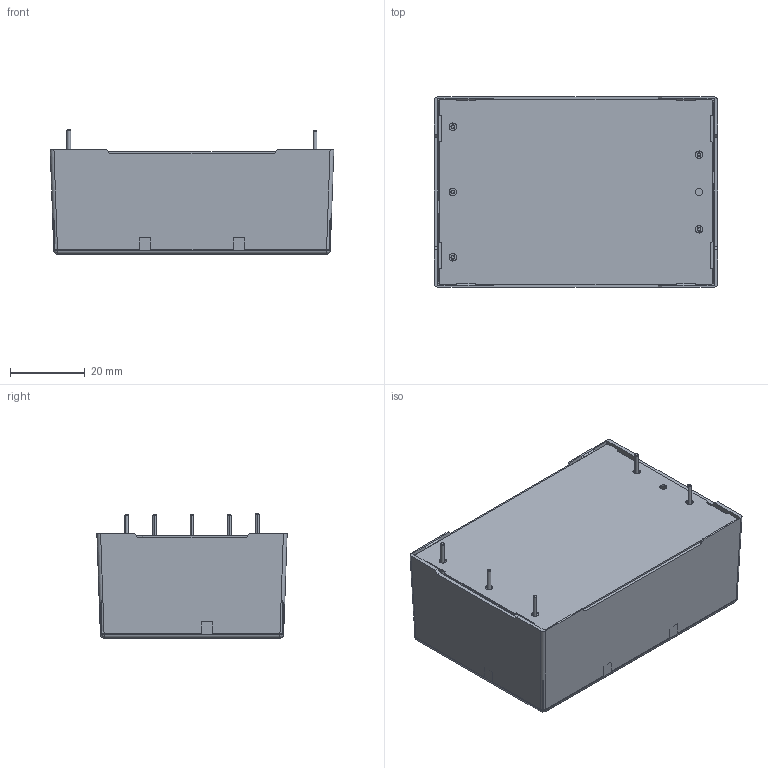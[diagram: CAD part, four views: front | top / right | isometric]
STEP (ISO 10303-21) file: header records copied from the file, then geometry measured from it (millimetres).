
FILE_DESCRIPTION (( 'STEP AP214' ), '1' );
FILE_NAME ('tms25-pcb-single.STEP', '2015-12-22T15:25:25', ( '' ), ( '' ), 'SwSTEP 2.0', 'SolidWorks 2013', '' );
FILE_SCHEMA (( 'AUTOMOTIVE_DESIGN' ));
Length unit declared in the file: millimetre
Products named in the file (4): Pin; Base; Case; tms25-pcb-single
Assembly tree (7 placements, depth 2):
  tms25-pcb-single
    Case
    Base
    Pin  x5
Bounding box: 76 x 51 x 33.3 mm (x, y, z)
Volume: 8458.9 mm3; surface area: 28494.5 mm2
Topology: 7 solids, 7 shells, 248 faces, 629 edges, 394 vertices
Faces by surface type: plane 139, cylinder 81, cone 20, bspline 4, sphere 4
Entity records: 7403 total; most frequent: CARTESIAN_POINT 1301, ORIENTED_EDGE 1138, DIRECTION 1083, EDGE_CURVE 569, LINE 443, VECTOR 443, VERTEX_POINT 362, AXIS2_PLACEMENT_3D 320
